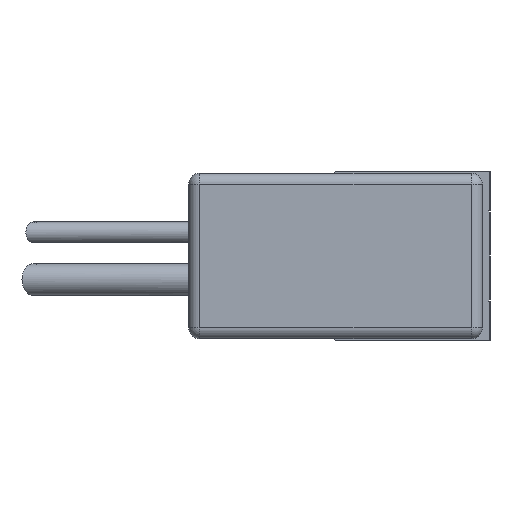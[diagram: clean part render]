
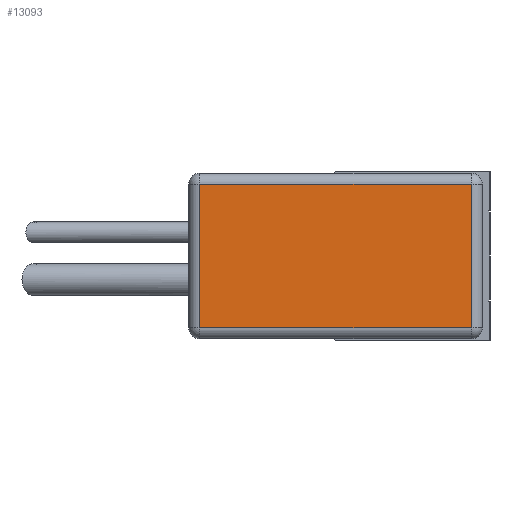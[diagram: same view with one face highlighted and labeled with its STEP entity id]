
A CAD part, left-side view. The second image highlights one B-rep face of the part: STEP entity #13093.
In plain terms, the highlighted planar face has unit normal (-1, 0, 0) as drawn and (0, 0, -1) by its records, which use the part's own axes.
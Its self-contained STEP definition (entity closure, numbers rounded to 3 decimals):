
#782=PLANE('',#21529);
#2480=VERTEX_POINT('',#20228);
#2481=VERTEX_POINT('',#20232);
#2485=VERTEX_POINT('',#20240);
#2490=VERTEX_POINT('',#20253);
#3852=VECTOR('',#16394,1.);
#3854=VECTOR('',#16398,1.);
#3856=VECTOR('',#16402,1.);
#3859=VECTOR('',#16409,1.);
#5205=LINE('',#20265,#3852);
#5207=LINE('',#20268,#3854);
#5209=LINE('',#20271,#3856);
#5212=LINE('',#20276,#3859);
#7002=EDGE_CURVE('',#2481,#2490,#5205,.T.);
#7004=EDGE_CURVE('',#2490,#2485,#5207,.T.);
#7006=EDGE_CURVE('',#2485,#2480,#5209,.T.);
#7009=EDGE_CURVE('',#2480,#2481,#5212,.T.);
#10611=ORIENTED_EDGE('',*,*,#7002,.F.);
#10612=ORIENTED_EDGE('',*,*,#7009,.F.);
#10613=ORIENTED_EDGE('',*,*,#7006,.F.);
#10614=ORIENTED_EDGE('',*,*,#7004,.F.);
#11515=EDGE_LOOP('',(#10611,#10612,#10613,#10614));
#12354=FACE_BOUND('',#11515,.T.);
#13093=ADVANCED_FACE('',(#12354),#782,.T.);
#16394=DIRECTION('',(0.,-1.,0.));
#16398=DIRECTION('',(1.,0.,0.));
#16402=DIRECTION('',(0.,1.,0.));
#16409=DIRECTION('',(-1.,0.,0.));
#16431=DIRECTION('',(0.,0.,-1.));
#20228=CARTESIAN_POINT('',(1.9,5.2,-9.1));
#20232=CARTESIAN_POINT('',(-1.9,5.2,-9.1));
#20240=CARTESIAN_POINT('',(1.9,-2.,-9.1));
#20253=CARTESIAN_POINT('',(-1.9,-2.,-9.1));
#20265=CARTESIAN_POINT('',(-1.9,3.125,-9.1));
#20268=CARTESIAN_POINT('',(-2.,-2.,-9.1));
#20271=CARTESIAN_POINT('',(1.9,0.1,-9.1));
#20276=CARTESIAN_POINT('',(-1.1,5.2,-9.1));
#20303=CARTESIAN_POINT('',(-2.2,2.1,-9.1));
#21529=AXIS2_PLACEMENT_3D('',#20303,#16431,$);
